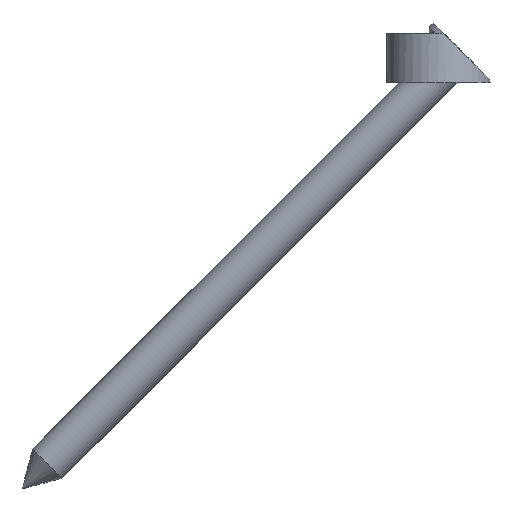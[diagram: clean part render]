
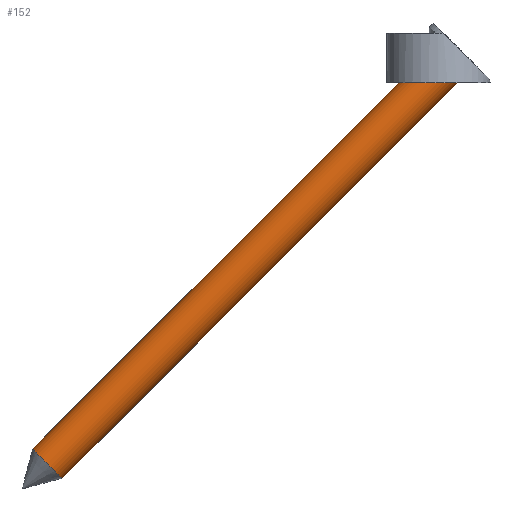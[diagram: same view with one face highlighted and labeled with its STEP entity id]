
A CAD part, left-side view. The second image highlights one B-rep face of the part: STEP entity #152.
In plain terms, the highlighted cylindrical face has radius 4 mm (diameter 8 mm), a full revolution.
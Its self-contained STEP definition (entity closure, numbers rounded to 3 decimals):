
#36=CYLINDRICAL_SURFACE('',#198,4.);
#44=CIRCLE('',#197,4.);
#45=CIRCLE('',#199,4.);
#68=ORIENTED_EDGE('',*,*,#85,.F.);
#69=ORIENTED_EDGE('',*,*,#84,.T.);
#84=EDGE_CURVE('',#95,#95,#44,.T.);
#85=EDGE_CURVE('',#97,#97,#45,.T.);
#95=VERTEX_POINT('',#288);
#97=VERTEX_POINT('',#292);
#115=EDGE_LOOP('',(#68));
#116=EDGE_LOOP('',(#69));
#134=FACE_BOUND('',#115,.T.);
#135=FACE_BOUND('',#116,.T.);
#152=ADVANCED_FACE('',(#134,#135),#36,.T.);
#197=AXIS2_PLACEMENT_3D('',#287,#238,#239);
#198=AXIS2_PLACEMENT_3D('',#290,#240,#241);
#199=AXIS2_PLACEMENT_3D('',#291,#242,#243);
#238=DIRECTION('',(0.,0.,1.));
#239=DIRECTION('',(0.,-1.,0.));
#240=DIRECTION('',(0.,0.,1.));
#241=DIRECTION('',(0.,-1.,0.));
#242=DIRECTION('',(0.,0.,1.));
#243=DIRECTION('',(0.,-1.,0.));
#287=CARTESIAN_POINT('',(0.,0.,-113.072));
#288=CARTESIAN_POINT('',(0.,-4.,-113.072));
#290=CARTESIAN_POINT('',(0.,0.,0.));
#291=CARTESIAN_POINT('',(0.,0.,-4.5));
#292=CARTESIAN_POINT('',(0.,-4.,-4.5));
